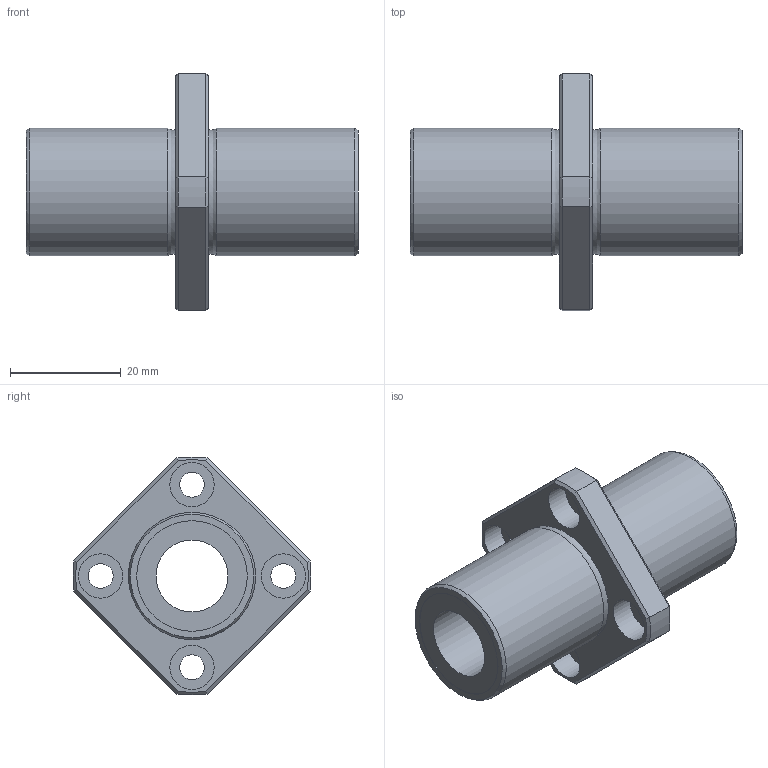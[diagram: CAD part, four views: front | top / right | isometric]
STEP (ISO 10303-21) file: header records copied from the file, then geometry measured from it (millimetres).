
FILE_DESCRIPTION((''),'2;1');
FILE_NAME('D:\製品 (図面)\カタログ用3D\リニアベアリング関連\STEP形式\LFDKC\LFDKC13.stp','2010-06-03T09:37:35',('Tsuchiya'),(''),'Autodesk Inventor 10','Autodesk Inventor 10','');
FILE_SCHEMA(('AUTOMOTIVE_DESIGN { 1 0 10303 214 1 1 1 1 }'));
Length unit declared in the file: millimetre
Products named in the file (1): LFDKC13
Bounding box: 60 x 42.96 x 42.96 mm (x, y, z)
Volume: 20144 mm3; surface area: 9435.9 mm2
Topology: 1 solids, 1 shells, 51 faces, 103 edges, 62 vertices
Faces by surface type: plane 22, cylinder 17, cone 8, torus 2, bspline 2
Full cylindrical faces by diameter (mm): 4.5 x4, 8 x4, 13 x1, 20 x2, 23 x2
Entity records: 1413 total; most frequent: CARTESIAN_POINT 372, DIRECTION 216, ORIENTED_EDGE 172, AXIS2_PLACEMENT_3D 96, EDGE_CURVE 86, EDGE_LOOP 86, VERTEX_POINT 62, FACE_OUTER_BOUND 51
